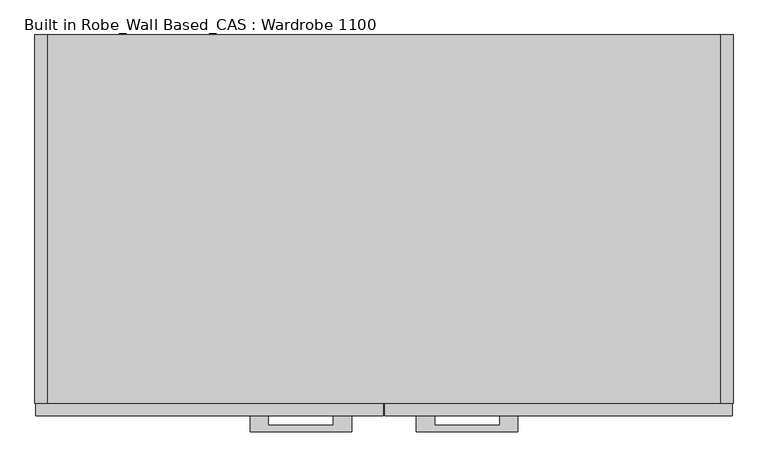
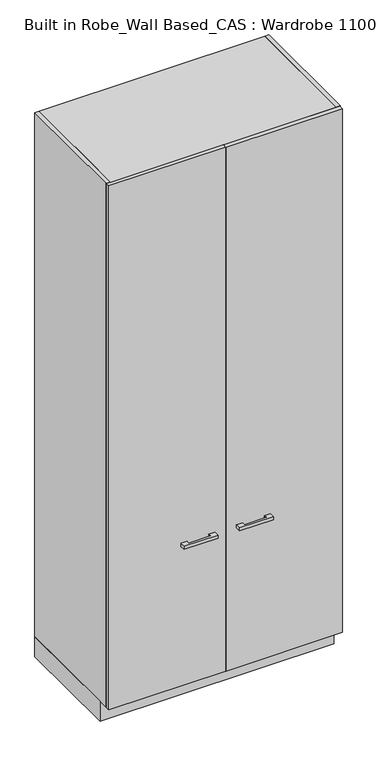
"""IFC4 building model written with IfcOpenShell, lengths in millimetres: furniture geometry, Built in Robe_Wall Based_CAS : Wardrobe 1100."""

from ifc_helpers import new_model, si_unit, point, frame, frame_2d, origin, origin_with_axes, place, context, project, spatial, polyline, circle_curve, trimmed, segment, composite_curve, outline, extrude, source, transform, mapped, element, save


def built_in_robe_wall_based_cas_wardrobe_1100_1fc6e238(model_context):
    return source(origin(), model_context, "Body", "SweptSolid", [
        extrude(outline(polyline([(675.0, 11.0), (-425.0, 11.0), (-425.0, 541.0), (-405.0, 541.0), (-405.0, 31.0), (655.0, 31.0), (655.0, 541.0), (675.0, 541.0), (675.0, 11.0)])), origin_with_axes(), (0.0, 0.0, 1.0), 100.0),
        extrude(outline(polyline([(176.0, -84.0), (176.0, -59.0), (205.0, -59.0), (205.0, -74.0), (307.0, -74.0), (307.0, -59.0), (336.0, -59.0), (336.0, -84.0), (176.0, -84.0)])), frame((0.0, 0.0, 792.5), z_axis=(0.0, 0.0, 1.0), x_axis=(1.0, 0.0, 0.0)), (0.0, 0.0, 1.0), 15.0),
        extrude(outline(polyline([(674.0, -59.0), (126.0, -59.0), (126.0, -39.0), (674.0, -39.0), (674.0, -59.0)])), frame((0.0, 0.0, 100.0), z_axis=(0.0, 0.0, 1.0), x_axis=(1.0, 0.0, 0.0)), (0.0, 0.0, 1.0), 2599.0),
        extrude(outline(polyline([(74.0, -84.0), (-86.0, -84.0), (-86.0, -59.0), (-57.0, -59.0), (-57.0, -74.0), (45.0, -74.0), (45.0, -59.0), (74.0, -59.0), (74.0, -84.0)])), frame((0.0, 0.0, 792.5), z_axis=(0.0, 0.0, 1.0), x_axis=(1.0, 0.0, 0.0)), (0.0, 0.0, 1.0), 15.0),
        extrude(outline(polyline([(-424.0, -59.0), (-424.0, -39.0), (124.0, -39.0), (124.0, -59.0), (-424.0, -59.0)])), frame((0.0, 0.0, 100.0), z_axis=(0.0, 0.0, 1.0), x_axis=(1.0, 0.0, 0.0)), (0.0, 0.0, 1.0), 2599.0),
        extrude(outline(composite_curve([segment(trimmed(circle_curve(frame_2d((231.0, 2060.0)), 37.5), [point((193.5, 2060.0))], [point((268.5, 2060.0))], False, "CARTESIAN"), True, "CONTINUOUS"), segment(trimmed(circle_curve(frame_2d((231.0, 2060.0)), 37.5), [point((268.5, 2060.0))], [point((193.5, 2060.0))], False, "CARTESIAN"), True, "CONTINUOUS")], self_intersect=False)), frame((-405.0, 0.0, 0.0), z_axis=(1.0, 0.0, 0.0), x_axis=(0.0, 1.0, 0.0)), (0.0, 0.0, 1.0), 10.0),
        extrude(outline(composite_curve([segment(trimmed(circle_curve(frame_2d((231.0, 2060.0)), 10.0), [point((241.0, 2060.0))], [point((221.0, 2060.0))], False, "CARTESIAN"), True, "CONTINUOUS"), segment(trimmed(circle_curve(frame_2d((231.0, 2060.0)), 10.0), [point((221.0, 2060.0))], [point((241.0, 2060.0))], False, "CARTESIAN"), True, "CONTINUOUS")], self_intersect=False)), frame((-395.0, 0.0, 0.0), z_axis=(1.0, 0.0, 0.0), x_axis=(0.0, 1.0, 0.0)), (0.0, 0.0, 1.0), 1040.0),
        extrude(outline(composite_curve([segment(trimmed(circle_curve(frame_2d((231.0, 2060.0)), 37.5), [point((193.5, 2060.0))], [point((268.5, 2060.0))], False, "CARTESIAN"), True, "CONTINUOUS"), segment(trimmed(circle_curve(frame_2d((231.0, 2060.0)), 37.5), [point((268.5, 2060.0))], [point((193.5, 2060.0))], False, "CARTESIAN"), True, "CONTINUOUS")], self_intersect=False)), frame((645.0, 0.0, 0.0), z_axis=(1.0, 0.0, 0.0), x_axis=(0.0, 1.0, 0.0)), (0.0, 0.0, 1.0), 10.0),
        extrude(outline(composite_curve([segment(trimmed(circle_curve(frame_2d((231.0, 1100.0)), 37.5), [point((193.5, 1100.0))], [point((268.5, 1100.0))], False, "CARTESIAN"), True, "CONTINUOUS"), segment(trimmed(circle_curve(frame_2d((231.0, 1100.0)), 37.5), [point((268.5, 1100.0))], [point((193.5, 1100.0))], False, "CARTESIAN"), True, "CONTINUOUS")], self_intersect=False)), frame((-405.0, 0.0, 0.0), z_axis=(1.0, 0.0, 0.0), x_axis=(0.0, 1.0, 0.0)), (0.0, 0.0, 1.0), 10.0),
        extrude(outline(composite_curve([segment(trimmed(circle_curve(frame_2d((231.0, 1100.0)), 10.0), [point((241.0, 1100.0))], [point((221.0, 1100.0))], False, "CARTESIAN"), True, "CONTINUOUS"), segment(trimmed(circle_curve(frame_2d((231.0, 1100.0)), 10.0), [point((221.0, 1100.0))], [point((241.0, 1100.0))], False, "CARTESIAN"), True, "CONTINUOUS")], self_intersect=False)), frame((-395.0, 0.0, 0.0), z_axis=(1.0, 0.0, 0.0), x_axis=(0.0, 1.0, 0.0)), (0.0, 0.0, 1.0), 1040.0),
        extrude(outline(composite_curve([segment(trimmed(circle_curve(frame_2d((231.0, 1100.0)), 37.5), [point((193.5, 1100.0))], [point((268.5, 1100.0))], False, "CARTESIAN"), True, "CONTINUOUS"), segment(trimmed(circle_curve(frame_2d((231.0, 1100.0)), 37.5), [point((268.5, 1100.0))], [point((193.5, 1100.0))], False, "CARTESIAN"), True, "CONTINUOUS")], self_intersect=False)), frame((645.0, 0.0, 0.0), z_axis=(1.0, 0.0, 0.0), x_axis=(0.0, 1.0, 0.0)), (0.0, 0.0, 1.0), 10.0),
        extrude(outline(polyline([(-405.0, 521.0), (655.0, 521.0), (655.0, -39.0), (-405.0, -39.0), (-405.0, 521.0)])), frame((0.0, 0.0, 100.0), z_axis=(0.0, 0.0, 1.0), x_axis=(1.0, 0.0, 0.0)), (0.0, 0.0, 1.0), 20.0),
        extrude(outline(polyline([(-405.0, 541.0), (655.0, 541.0), (655.0, -39.0), (-405.0, -39.0), (-405.0, 541.0)])), frame((0.0, 0.0, 2680.0), z_axis=(0.0, 0.0, 1.0), x_axis=(1.0, 0.0, 0.0)), (0.0, 0.0, 1.0), 20.0),
        extrude(outline(polyline([(-405.0, 541.0), (-405.0, -39.0), (-425.0, -39.0), (-425.0, 541.0), (-405.0, 541.0)])), frame((0.0, 0.0, 100.0), z_axis=(0.0, 0.0, 1.0), x_axis=(1.0, 0.0, 0.0)), (0.0, 0.0, 1.0), 2600.0),
        extrude(outline(polyline([(675.0, 541.0), (675.0, -39.0), (655.0, -39.0), (655.0, 541.0), (675.0, 541.0)])), frame((0.0, 0.0, 100.0), z_axis=(0.0, 0.0, 1.0), x_axis=(1.0, 0.0, 0.0)), (0.0, 0.0, 1.0), 2600.0),
        extrude(outline(polyline([(-405.0, 521.0), (-405.0, 541.0), (655.0, 541.0), (655.0, 521.0), (-405.0, 521.0)])), frame((0.0, 0.0, 100.0), z_axis=(0.0, 0.0, 1.0), x_axis=(1.0, 0.0, 0.0)), (0.0, 0.0, 1.0), 2580.0),
    ])


if __name__ == "__main__":
    model = new_model("IFC4")
    model_context = context("Model", 3, world=origin())
    ifc_project = project(units=[si_unit("LENGTHUNIT", "METRE", prefix="MILLI")], contexts=[model_context])
    site = spatial("IfcSite", under=ifc_project)
    building = spatial("IfcBuilding", under=site)
    placement = place(None, origin())
    built_in_robe_wall_based_cas_wardrobe_1100_shape = built_in_robe_wall_based_cas_wardrobe_1100_1fc6e238(model_context)
    element("IfcFurniture", 1, ObjectType="Built in Robe_Wall Based_CAS : Wardrobe 1100", at=placement, inside=building, context=model_context, shape_type="MappedRepresentation", body=[
        mapped(built_in_robe_wall_based_cas_wardrobe_1100_shape, transform((0.0, 0.0, 0.0), x_axis=(1.0, 0.0, 0.0), y_axis=(0.0, 1.0, 0.0), z_axis=(0.0, 0.0, 1.0))),
    ])
    save(model, "model.ifc")
